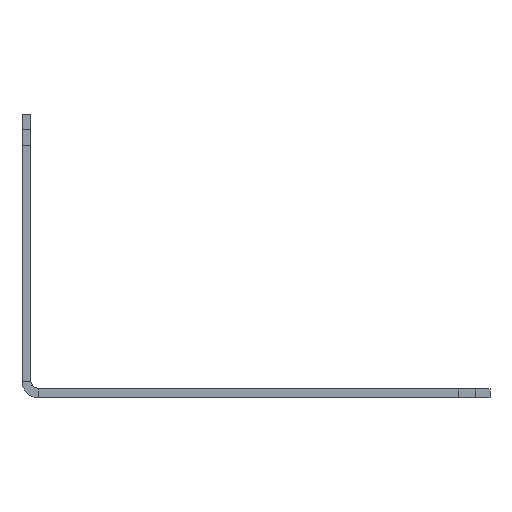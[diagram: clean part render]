
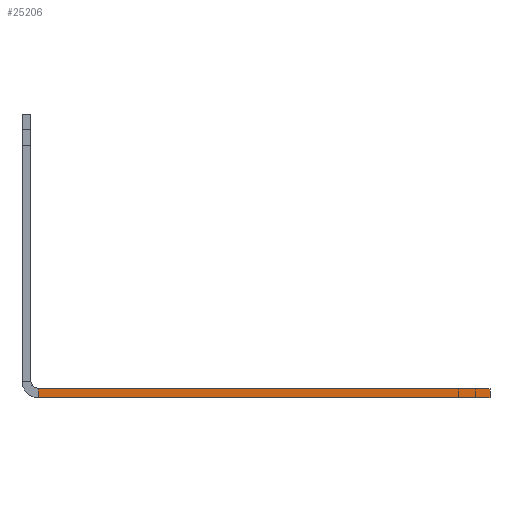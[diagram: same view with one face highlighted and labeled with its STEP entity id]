
A CAD part, front view. The second image highlights one B-rep face of the part: STEP entity #25206.
In plain terms, the highlighted free-form (B-spline) face has degree [1, 1] with [2, 2] control points.
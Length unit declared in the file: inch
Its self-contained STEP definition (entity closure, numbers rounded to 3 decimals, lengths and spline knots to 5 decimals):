
#25171=CARTESIAN_POINT('F10',(4.97802,0.0,0.)
   );
#25172=CARTESIAN_POINT('F10',(0.08,0.0,0.)
   );
#25173=CARTESIAN_POINT('F10',(4.97802,0.,
   -0.097));
#25174=CARTESIAN_POINT('F10',(0.08,0.,
   -0.097));
#25175=QUASI_UNIFORM_SURFACE('F10',1,1,((#25171,#25173),(#25172,
   #25174)),.PLANE_SURF.,.F.,.F.,.U.);
#25176=CARTESIAN_POINT('V3',(4.97802,0.0,0.));
#25177=VERTEX_POINT('V3',#25176);
#25178=CARTESIAN_POINT('V4',(0.08,0.0,0.));
#25179=VERTEX_POINT('V4',#25178);
#25180=CARTESIAN_POINT('E3',(4.97802,0.0,0.));
#25181=CARTESIAN_POINT('E3',(0.08,0.0,0.));
#25182=QUASI_UNIFORM_CURVE('E3',1,(#25180,#25181),.POLYLINE_FORM.,
   .F.,.U.);
#25183=EDGE_CURVE('E3',#25177,#25179,#25182,.T.);
#25184=ORIENTED_EDGE('E3',*,*,#25183,.T.);
#25185=CARTESIAN_POINT('V191',(0.08,0.0,
   -0.097));
#25186=VERTEX_POINT('V191',#25185);
#25187=CARTESIAN_POINT('E385',(0.08,0.0,0.)
   );
#25188=CARTESIAN_POINT('E385',(0.08,0.,
   -0.097));
#25189=QUASI_UNIFORM_CURVE('E385',1,(#25187,#25188),.POLYLINE_FORM.,
   .F.,.U.);
#25190=EDGE_CURVE('E385',#25179,#25186,#25189,.T.);
#25191=ORIENTED_EDGE('E385',*,*,#25190,.T.);
#25192=CARTESIAN_POINT('V190',(4.97802,0.,
   -0.097));
#25193=VERTEX_POINT('V190',#25192);
#25194=CARTESIAN_POINT('E192',(4.97802,0.,
   -0.097));
#25195=CARTESIAN_POINT('E192',(0.08,0.,
   -0.097));
#25196=B_SPLINE_CURVE_WITH_KNOTS('E192',1,(#25194,#25195),
   .POLYLINE_FORM.,.F.,.U.,(2,2),(0.01071,
   0.90357),.UNSPECIFIED.);
#25197=EDGE_CURVE('E192',#25193,#25186,#25196,.T.);
#25198=ORIENTED_EDGE('E192',*,*,#25197,.F.);
#25199=CARTESIAN_POINT('E381',(4.97802,0.0,0.)
   );
#25200=CARTESIAN_POINT('E381',(4.97802,0.,
   -0.097));
#25201=QUASI_UNIFORM_CURVE('E381',1,(#25199,#25200),.POLYLINE_FORM.,
   .F.,.U.);
#25202=EDGE_CURVE('E381',#25177,#25193,#25201,.T.);
#25203=ORIENTED_EDGE('E381',*,*,#25202,.F.);
#25204=EDGE_LOOP('F10',(#25184,#25191,#25198,#25203));
#25205=FACE_OUTER_BOUND('F10',#25204,.T.);
#25206=ADVANCED_FACE('F10',(#25205),#25175,.T.);
